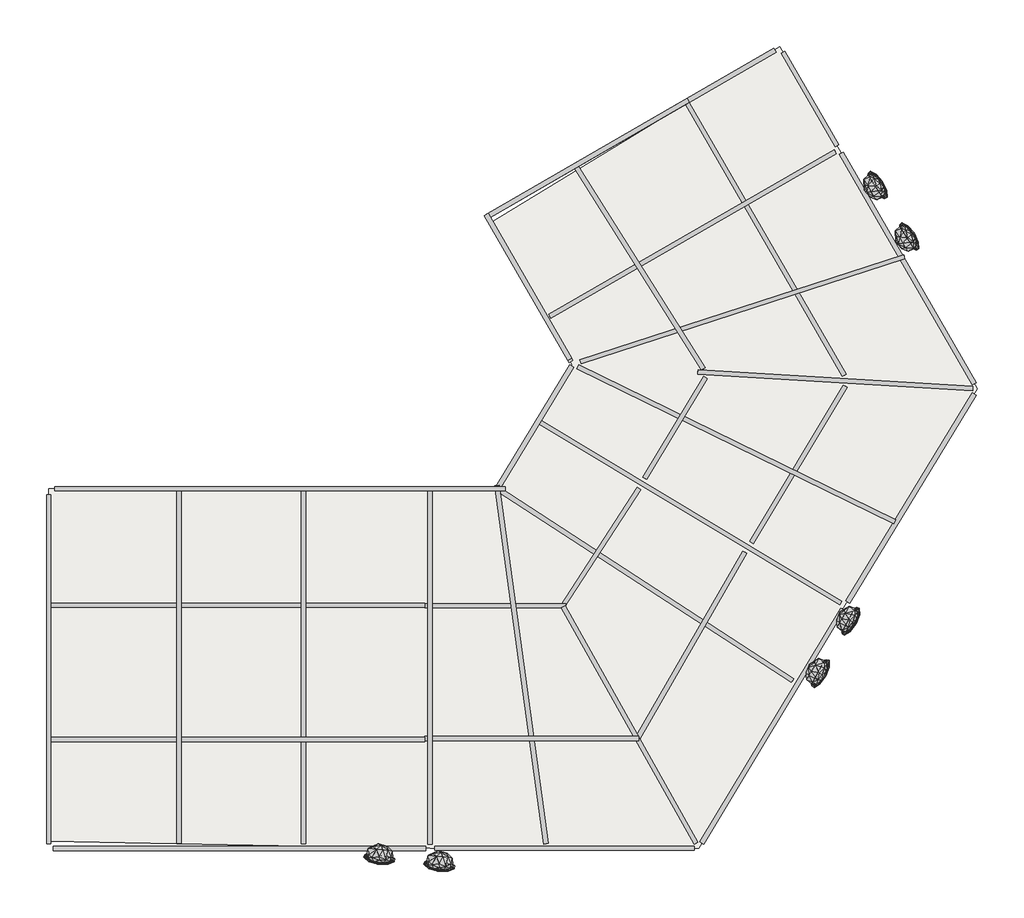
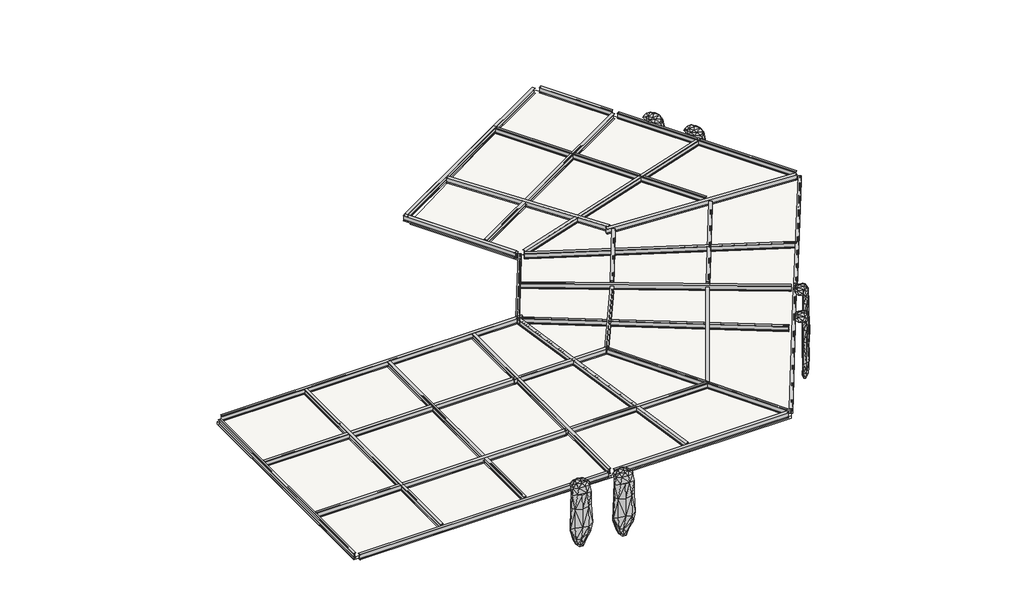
# One storey: 34 beams, 6 geographic elements, 1 slab.
"""IFC4 building model written with IfcOpenShell, lengths in millimetres."""

from ifc_helpers import new_model, si_unit, frame, origin, place, context, project, spatial, polyline, outline, extrude, transform, mapped, element, save
from components import ub_universal_beams_ub305x165x40_ebd12d4d, ub_universal_beams_ub305x165x40_08e823ad, ub_universal_beams_ub305x165x40_53f3f6d7, ub_universal_beams_ub305x165x40_38e517ae, ub_universal_beams_ub305x165x40_d7a34fde, ub_universal_beams_ub305x165x40_15c34948, ub_universal_beams_ub305x165x40_3932fa12, ub_universal_beams_ub305x165x40_b5175b7f, ub_universal_beams_ub305x165x40_0e36f50a, ub_universal_beams_ub305x165x40_98ae4895, ub_universal_beams_ub305x165x40_3089dc19, ub_universal_beams_ub305x165x40_7371696c, ub_universal_beams_ub305x165x40_f5bf656f, ub_universal_beams_ub305x165x40_f8523725, ub_universal_beams_ub305x165x40_6963316a, ub_universal_beams_ub305x165x40_47e0d0ad, ub_universal_beams_ub305x165x40_8de8485a, ub_universal_beams_ub305x165x40_45dcbf9e, ub_universal_beams_ub305x165x40_f3545ca2, ub_universal_beams_ub305x165x40_58b05e4c, ub_universal_beams_ub305x165x40_7c043438, ub_universal_beams_ub305x165x40_556f6fdc, ub_universal_beams_ub305x165x40_46529011, ub_universal_beams_ub305x165x40_ecdec9dc, ub_universal_beams_ub305x165x40_0bb05f15, ub_universal_beams_ub305x165x40_9898df02, ub_universal_beams_ub305x165x40_db302e90, ub_universal_beams_ub305x165x40_6e8e4b9c, ub_universal_beams_ub305x165x40_9f48e393, ub_universal_beams_ub305x165x40_abdacf20, ub_universal_beams_ub305x165x40_1d1fa9cd, ub_universal_beams_ub305x165x40_e7aacc84, ub_universal_beams_ub305x165x40_00892be4, geographic_element_f46679e8, geographic_element_4bf2e114

model = new_model("IFC4")

# Units and contexts
model_context = context("Model", 3, world=origin())
ifc_project = project(units=[si_unit("LENGTHUNIT", "METRE", prefix="MILLI")], contexts=[model_context])

# Site, building, storey
site = spatial("IfcSite", under=ifc_project)
building = spatial("IfcBuilding", under=site)
storey = spatial("IfcBuildingStorey", under=building, Name="RF LV", Elevation=18000.0)

# Beams
placement = place(None, origin())
ub_universal_beams_ub305x165x40_shape = ub_universal_beams_ub305x165x40_ebd12d4d(model_context)
element("IfcBeam", 1, ObjectType="UB-Universal Beams : UB305x165x40", at=placement, inside=storey, context=model_context, shape_type="MappedRepresentation", body=[
    mapped(ub_universal_beams_ub305x165x40_shape, transform((-6325.5325481, 5198.0548037, 17848.3), x_axis=(1.0, 0.0, 0.0), y_axis=(0.0, 1.0, 0.0), z_axis=(0.0, 0.0, 1.0))),
])
element("IfcBeam", 2, ObjectType="UB-Universal Beams : UB305x165x40", at=placement, inside=storey, context=model_context, shape_type="MappedRepresentation", body=[
    mapped(ub_universal_beams_ub305x165x40_shape, transform((-6325.5325481, 138.0977869, 17848.3), x_axis=(1.0, 0.0, 0.0), y_axis=(0.0, 1.0, 0.0), z_axis=(0.0, 0.0, 1.0))),
])
ub_universal_beams_ub305x165x40_2_shape = ub_universal_beams_ub305x165x40_08e823ad(model_context)
element("IfcBeam", 3, ObjectType="UB-Universal Beams : UB305x165x40", at=placement, inside=storey, context=model_context, shape_type="MappedRepresentation", body=[
    mapped(ub_universal_beams_ub305x165x40_2_shape, transform((6874.6309543, 22030.5260929, 17848.3), x_axis=(0.8660254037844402, 0.4999999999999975, 0.0), y_axis=(-0.4999999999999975, 0.8660254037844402, 0.0), z_axis=(0.0, 0.0, 1.0))),
])
ub_universal_beams_ub305x165x40_3_shape = ub_universal_beams_ub305x165x40_53f3f6d7(model_context)
element("IfcBeam", 4, ObjectType="UB-Universal Beams : UB305x165x40", at=placement, inside=storey, context=model_context, shape_type="MappedRepresentation", body=[
    mapped(ub_universal_beams_ub305x165x40_3_shape, transform((-8500.1805756, 2806.9557412, 17848.3), x_axis=(0.0, -1.0, 0.0), y_axis=(1.0, 0.0, 0.0), z_axis=(0.0, 0.0, 1.0))),
])
ub_universal_beams_ub305x165x40_4_shape = ub_universal_beams_ub305x165x40_38e517ae(model_context)
element("IfcBeam", 5, ObjectType="UB-Universal Beams : UB305x165x40", at=placement, inside=storey, context=model_context, shape_type="MappedRepresentation", body=[
    mapped(ub_universal_beams_ub305x165x40_4_shape, transform((-3804.3842071, 2806.9557412, 17848.3), x_axis=(0.0, -1.0, 0.0), y_axis=(1.0, 0.0, 0.0), z_axis=(0.0, 0.0, 1.0))),
])
ub_universal_beams_ub305x165x40_5_shape = ub_universal_beams_ub305x165x40_d7a34fde(model_context)
element("IfcBeam", 6, ObjectType="UB-Universal Beams : UB305x165x40", at=placement, inside=storey, context=model_context, shape_type="MappedRepresentation", body=[
    mapped(ub_universal_beams_ub305x165x40_5_shape, transform((960.5515361, 2806.9557412, 17848.3), x_axis=(0.0, -1.0, 0.0), y_axis=(1.0, 0.0, 0.0), z_axis=(0.0, 0.0, 1.0))),
])
ub_universal_beams_ub305x165x40_6_shape = ub_universal_beams_ub305x165x40_15c34948(model_context)
element("IfcBeam", 7, ObjectType="UB-Universal Beams : UB305x165x40", at=placement, inside=storey, context=model_context, shape_type="MappedRepresentation", body=[
    mapped(ub_universal_beams_ub305x165x40_6_shape, transform((-6229.2825481, -3976.1173429, 17848.3), x_axis=(1.0, 0.0, 0.0), y_axis=(0.0, 1.0, 0.0), z_axis=(0.0, 0.0, 1.0))),
])
ub_universal_beams_ub305x165x40_7_shape = ub_universal_beams_ub305x165x40_3932fa12(model_context)
element("IfcBeam", 8, ObjectType="UB-Universal Beams : UB305x165x40", at=placement, inside=storey, context=model_context, shape_type="MappedRepresentation", body=[
    mapped(ub_universal_beams_ub305x165x40_7_shape, transform((6031.6646176, -3968.4770737, 17848.3), x_axis=(1.0, 0.0, 0.0), y_axis=(0.0, 1.0, 0.0), z_axis=(0.0, 0.0, 1.0))),
])
ub_universal_beams_ub305x165x40_8_shape = ub_universal_beams_ub305x165x40_b5175b7f(model_context)
element("IfcBeam", 9, ObjectType="UB-Universal Beams : UB305x165x40", at=placement, inside=storey, context=model_context, shape_type="MappedRepresentation", body=[
    mapped(ub_universal_beams_ub305x165x40_8_shape, transform((8645.1707307, 23052.7477094, 17848.3), x_axis=(-0.8660254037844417, -0.49999999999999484, 0.0), y_axis=(0.49999999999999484, -0.8660254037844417, 0.0), z_axis=(0.0, 0.0, 1.0))),
])
ub_universal_beams_ub305x165x40_9_shape = ub_universal_beams_ub305x165x40_0e36f50a(model_context)
element("IfcBeam", 10, ObjectType="UB-Universal Beams : UB305x165x40", at=placement, inside=storey, context=model_context, shape_type="MappedRepresentation", body=[
    mapped(ub_universal_beams_ub305x165x40_9_shape, transform((10824.4147917, 8664.3944617, 17848.3), x_axis=(0.8571673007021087, -0.5150380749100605, 0.0), y_axis=(0.5150380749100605, 0.8571673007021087, 0.0), z_axis=(0.0, 0.0, 1.0))),
])
ub_universal_beams_ub305x165x40_10_shape = ub_universal_beams_ub305x165x40_98ae4895(model_context)
element("IfcBeam", 11, ObjectType="UB-Universal Beams : UB305x165x40", at=placement, inside=storey, context=model_context, shape_type="MappedRepresentation", body=[
    mapped(ub_universal_beams_ub305x165x40_10_shape, transform((13850.0648725, 612.0922535, 17848.3), x_axis=(0.5150380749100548, 0.857167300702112, 0.0), y_axis=(-0.857167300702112, 0.5150380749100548, 0.0), z_axis=(0.0, 0.0, 1.0))),
])
ub_universal_beams_ub305x165x40_11_shape = ub_universal_beams_ub305x165x40_3089dc19(model_context)
element("IfcBeam", 12, ObjectType="UB-Universal Beams : UB305x165x40", at=placement, inside=storey, context=model_context, shape_type="MappedRepresentation", body=[
    mapped(ub_universal_beams_ub305x165x40_11_shape, transform((3368.7512305, 5175.0288254, 17848.3), x_axis=(1.0, 0.0, 0.0), y_axis=(0.0, 1.0, 0.0), z_axis=(0.0, 0.0, 1.0))),
])
ub_universal_beams_ub305x165x40_12_shape = ub_universal_beams_ub305x165x40_7371696c(model_context)
element("IfcBeam", 13, ObjectType="UB-Universal Beams : UB305x165x40", at=placement, inside=storey, context=model_context, shape_type="MappedRepresentation", body=[
    mapped(ub_universal_beams_ub305x165x40_12_shape, transform((4772.9401602, 172.7329161, 17848.3), x_axis=(1.0, 0.0, 0.0), y_axis=(0.0, 1.0, 0.0), z_axis=(0.0, 0.0, 1.0))),
])
ub_universal_beams_ub305x165x40_13_shape = ub_universal_beams_ub305x165x40_f5bf656f(model_context)
element("IfcBeam", 14, ObjectType="UB-Universal Beams : UB305x165x40", at=placement, inside=storey, context=model_context, shape_type="MappedRepresentation", body=[
    mapped(ub_universal_beams_ub305x165x40_13_shape, transform((7413.4022539, 7391.0578271, 17848.3), x_axis=(0.544639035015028, 0.8386705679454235, 0.0), y_axis=(-0.8386705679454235, 0.544639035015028, 0.0), z_axis=(0.0, 0.0, 1.0))),
])
ub_universal_beams_ub305x165x40_14_shape = ub_universal_beams_ub305x165x40_f8523725(model_context)
element("IfcBeam", 15, ObjectType="UB-Universal Beams : UB305x165x40", at=placement, inside=storey, context=model_context, shape_type="MappedRepresentation", body=[
    mapped(ub_universal_beams_ub305x165x40_14_shape, transform((10864.7733278, 3777.8483138, 17848.3), x_axis=(0.5000000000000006, 0.8660254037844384, 0.0), y_axis=(-0.8660254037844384, 0.5000000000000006, 0.0), z_axis=(0.0, 0.0, 1.0))),
])
ub_universal_beams_ub305x165x40_15_shape = ub_universal_beams_ub305x165x40_6963316a(model_context)
element("IfcBeam", 16, ObjectType="UB-Universal Beams : UB305x165x40", at=placement, inside=storey, context=model_context, shape_type="MappedRepresentation", body=[
    mapped(ub_universal_beams_ub305x165x40_15_shape, transform((14859.8156836, 10514.1317105, 17848.3), x_axis=(0.5150380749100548, 0.857167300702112, 0.0), y_axis=(-0.857167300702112, 0.5150380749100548, 0.0), z_axis=(0.0, 0.0, 1.0))),
])
ub_universal_beams_ub305x165x40_16_shape = ub_universal_beams_ub305x165x40_47e0d0ad(model_context)
element("IfcBeam", 17, ObjectType="UB-Universal Beams : UB305x165x40", at=placement, inside=storey, context=model_context, shape_type="MappedRepresentation", body=[
    mapped(ub_universal_beams_ub305x165x40_16_shape, transform((13670.2379986, 18927.0010796, 17848.3), x_axis=(-0.4999999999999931, 0.8660254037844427, 0.0), y_axis=(-0.8660254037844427, -0.4999999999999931, 0.0), z_axis=(0.0, 0.0, 1.0))),
])
ub_universal_beams_ub305x165x40_17_shape = ub_universal_beams_ub305x165x40_8de8485a(model_context)
element("IfcBeam", 18, ObjectType="UB-Universal Beams : UB305x165x40", at=placement, inside=storey, context=model_context, shape_type="MappedRepresentation", body=[
    mapped(ub_universal_beams_ub305x165x40_17_shape, transform((10206.7088206, 11882.6074586, 17848.3), x_axis=(0.5150380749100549, 0.8571673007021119, 0.0), y_axis=(-0.8571673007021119, 0.5150380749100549, 0.0), z_axis=(0.0, 0.0, 1.0))),
])
ub_universal_beams_ub305x165x40_18_shape = ub_universal_beams_ub305x165x40_45dcbf9e(model_context)
element("IfcBeam", 19, ObjectType="UB-Universal Beams : UB305x165x40", at=placement, inside=storey, context=model_context, shape_type="MappedRepresentation", body=[
    mapped(ub_universal_beams_ub305x165x40_18_shape, transform((8933.5035487, 17830.6990322, 17848.3), x_axis=(-0.5327087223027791, 0.8462986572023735, 0.0), y_axis=(-0.8462986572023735, -0.5327087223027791, 0.0), z_axis=(0.0, 0.0, 1.0))),
])
ub_universal_beams_ub305x165x40_19_shape = ub_universal_beams_ub305x165x40_f3545ca2(model_context)
element("IfcBeam", 20, ObjectType="UB-Universal Beams : UB305x165x40", at=placement, inside=storey, context=model_context, shape_type="MappedRepresentation", body=[
    mapped(ub_universal_beams_ub305x165x40_19_shape, transform((19110.8998143, 9251.3957006, 17848.3), x_axis=(0.5192356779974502, 0.8546310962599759, 0.0), y_axis=(-0.8546310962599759, 0.5192356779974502, 0.0), z_axis=(0.0, 0.0, 1.0))),
])
ub_universal_beams_ub305x165x40_20_shape = ub_universal_beams_ub305x165x40_58b05e4c(model_context)
element("IfcBeam", 21, ObjectType="UB-Universal Beams : UB305x165x40", at=placement, inside=storey, context=model_context, shape_type="MappedRepresentation", body=[
    mapped(ub_universal_beams_ub305x165x40_20_shape, transform((18999.0168805, 17871.5989982, 17848.3), x_axis=(-0.4997126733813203, 0.8661912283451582, 0.0), y_axis=(-0.8661912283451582, -0.4997126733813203, 0.0), z_axis=(0.0, 0.0, 1.0))),
])
ub_universal_beams_ub305x165x40_21_shape = ub_universal_beams_ub305x165x40_7c043438(model_context)
element("IfcBeam", 22, ObjectType="UB-Universal Beams : UB305x165x40", at=placement, inside=storey, context=model_context, shape_type="MappedRepresentation", body=[
    mapped(ub_universal_beams_ub305x165x40_21_shape, transform((15281.1015417, 24314.6765108, 17848.3), x_axis=(-0.4999999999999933, 0.8660254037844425, 0.0), y_axis=(-0.8660254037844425, -0.4999999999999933, 0.0), z_axis=(0.0, 0.0, 1.0))),
])
ub_universal_beams_ub305x165x40_22_shape = ub_universal_beams_ub305x165x40_556f6fdc(model_context)
element("IfcBeam", 23, ObjectType="UB-Universal Beams : UB305x165x40", at=placement, inside=storey, context=model_context, shape_type="MappedRepresentation", body=[
    mapped(ub_universal_beams_ub305x165x40_22_shape, transform((7296.7845649, 2810.7758759, 17848.3), x_axis=(0.48954421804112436, -0.8719784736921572, 0.0), y_axis=(0.8719784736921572, 0.48954421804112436, 0.0), z_axis=(0.0, 0.0, 1.0))),
])
ub_universal_beams_ub305x165x40_23_shape = ub_universal_beams_ub305x165x40_46529011(model_context)
element("IfcBeam", 24, ObjectType="UB-Universal Beams : UB305x165x40", at=placement, inside=storey, context=model_context, shape_type="MappedRepresentation", body=[
    mapped(ub_universal_beams_ub305x165x40_23_shape, transform((9163.9729449, 5913.1134518, 17848.3), x_axis=(0.8386705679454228, -0.5446390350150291, 0.0), y_axis=(0.5446390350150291, 0.8386705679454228, 0.0), z_axis=(0.0, 0.0, 1.0))),
])
ub_universal_beams_ub305x165x40_24_shape = ub_universal_beams_ub305x165x40_ecdec9dc(model_context)
element("IfcBeam", 25, ObjectType="UB-Universal Beams : UB305x165x40", at=placement, inside=storey, context=model_context, shape_type="MappedRepresentation", body=[
    mapped(ub_universal_beams_ub305x165x40_24_shape, transform((4440.0365323, 2736.0666035, 17848.3), x_axis=(0.13598314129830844, -0.9907111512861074, 0.0), y_axis=(0.9907111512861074, 0.13598314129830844, 0.0), z_axis=(0.0, 0.0, 1.0))),
])
ub_universal_beams_ub305x165x40_25_shape = ub_universal_beams_ub305x165x40_0bb05f15(model_context)
element("IfcBeam", 26, ObjectType="UB-Universal Beams : UB305x165x40", at=placement, inside=storey, context=model_context, shape_type="MappedRepresentation", body=[
    mapped(ub_universal_beams_ub305x165x40_25_shape, transform((4925.2400457, 11936.2573902, 17848.3), x_axis=(-0.518638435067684, -0.8549936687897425, 0.0), y_axis=(0.8549936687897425, -0.518638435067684, 0.0), z_axis=(0.0, 0.0, 1.0))),
])
ub_universal_beams_ub305x165x40_26_shape = ub_universal_beams_ub305x165x40_9898df02(model_context)
element("IfcBeam", 27, ObjectType="UB-Universal Beams : UB305x165x40", at=placement, inside=storey, context=model_context, shape_type="MappedRepresentation", body=[
    mapped(ub_universal_beams_ub305x165x40_26_shape, transform((4733.3229163, 17072.5687538, 17848.3), x_axis=(0.4999999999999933, -0.8660254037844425, 0.0), y_axis=(0.8660254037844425, 0.4999999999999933, 0.0), z_axis=(0.0, 0.0, 1.0))),
])
ub_universal_beams_ub305x165x40_27_shape = ub_universal_beams_ub305x165x40_db302e90(model_context)
element("IfcBeam", 28, ObjectType="UB-Universal Beams : UB305x165x40", at=placement, inside=storey, context=model_context, shape_type="MappedRepresentation", body=[
    mapped(ub_universal_beams_ub305x165x40_27_shape, transform((4733.3229163, 17072.5687538, 17848.3), x_axis=(0.4999999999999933, -0.8660254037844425, 0.0), y_axis=(0.8660254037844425, 0.4999999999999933, 0.0), z_axis=(0.0, 0.0, 1.0))),
])
ub_universal_beams_ub305x165x40_28_shape = ub_universal_beams_ub305x165x40_6e8e4b9c(model_context)
element("IfcBeam", 29, ObjectType="UB-Universal Beams : UB305x165x40", at=placement, inside=storey, context=model_context, shape_type="MappedRepresentation", body=[
    mapped(ub_universal_beams_ub305x165x40_28_shape, transform((13976.7996368, 13822.3558977, 17848.3), x_axis=(0.9981739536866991, -0.06040495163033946, 0.0), y_axis=(0.06040495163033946, 0.9981739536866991, 0.0), z_axis=(0.0, 0.0, 1.0))),
])
ub_universal_beams_ub305x165x40_29_shape = ub_universal_beams_ub305x165x40_9f48e393(model_context)
element("IfcBeam", 30, ObjectType="UB-Universal Beams : UB305x165x40", at=placement, inside=storey, context=model_context, shape_type="MappedRepresentation", body=[
    mapped(ub_universal_beams_ub305x165x40_29_shape, transform((12503.0054589, 11276.0266089, 17848.3), x_axis=(0.898794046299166, -0.43837114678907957, 0.0), y_axis=(0.43837114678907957, 0.898794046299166, 0.0), z_axis=(0.0, 0.0, 1.0))),
])
ub_universal_beams_ub305x165x40_30_shape = ub_universal_beams_ub305x165x40_abdacf20(model_context)
element("IfcBeam", 31, ObjectType="UB-Universal Beams : UB305x165x40", at=placement, inside=storey, context=model_context, shape_type="MappedRepresentation", body=[
    mapped(ub_universal_beams_ub305x165x40_30_shape, transform((10868.1267743, 19202.474899, 17848.3), x_axis=(0.8663618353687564, 0.49941683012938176, 0.0), y_axis=(-0.49941683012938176, 0.8663618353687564, 0.0), z_axis=(0.0, 0.0, 1.0))),
])
ub_universal_beams_ub305x165x40_31_shape = ub_universal_beams_ub305x165x40_1d1fa9cd(model_context)
element("IfcBeam", 32, ObjectType="UB-Universal Beams : UB305x165x40", at=placement, inside=storey, context=model_context, shape_type="MappedRepresentation", body=[
    mapped(ub_universal_beams_ub305x165x40_31_shape, transform((12545.3014323, 16295.9616916, 17848.3), x_axis=(0.9510565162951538, 0.3090169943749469, 0.0), y_axis=(-0.3090169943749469, 0.9510565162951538, 0.0), z_axis=(0.0, 0.0, 1.0))),
])
ub_universal_beams_ub305x165x40_32_shape = ub_universal_beams_ub305x165x40_e7aacc84(model_context)
element("IfcBeam", 33, ObjectType="UB-Universal Beams : UB305x165x40", at=placement, inside=storey, context=model_context, shape_type="MappedRepresentation", body=[
    mapped(ub_universal_beams_ub305x165x40_32_shape, transform((-13419.1166324, 2806.9557412, 17848.3), x_axis=(0.0, 1.0, 0.0), y_axis=(-1.0, 0.0, 0.0), z_axis=(0.0, 0.0, 1.0))),
])
ub_universal_beams_ub305x165x40_33_shape = ub_universal_beams_ub305x165x40_00892be4(model_context)
element("IfcBeam", 34, ObjectType="UB-Universal Beams : UB305x165x40", at=placement, inside=storey, context=model_context, shape_type="MappedRepresentation", body=[
    mapped(ub_universal_beams_ub305x165x40_33_shape, transform((-4964.1626009, 9590.0288254, 17848.3), x_axis=(1.0, 0.0, 0.0), y_axis=(0.0, 1.0, 0.0), z_axis=(0.0, 0.0, 1.0))),
])

# Geographic elements
geographic_element_shape = geographic_element_f46679e8(model_context)
element("IfcGeographicElement", 35, ObjectType="Enscape AssetDefinition - Creeper Plant 021 Bower Vine : Enscape AssetDefinition - Creeper Plant 021 Bower Vine", at=placement, inside=storey, context=model_context, shape_type="MappedRepresentation", body=[
    mapped(geographic_element_shape, transform((16744.1213804, 4644.0594791, 18000.0), x_axis=(0.4831824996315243, 0.8755196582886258, 0.0), y_axis=(-0.8755196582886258, 0.4831824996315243, 0.0), z_axis=(0.0, 0.0, 1.0))),
])
element("IfcGeographicElement", 36, ObjectType="Enscape AssetDefinition - Creeper Plant 021 Bower Vine : Enscape AssetDefinition - Creeper Plant 021 Bower Vine", at=placement, inside=storey, context=model_context, shape_type="MappedRepresentation", body=[
    mapped(geographic_element_shape, transform((15599.0071557, 2672.557577, 18000.0), x_axis=(0.4831824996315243, 0.8755196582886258, 0.0), y_axis=(-0.8755196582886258, 0.4831824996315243, 0.0), z_axis=(0.0, 0.0, 1.0))),
])
element("IfcGeographicElement", 37, ObjectType="Enscape AssetDefinition - Creeper Plant 021 Bower Vine : Enscape AssetDefinition - Creeper Plant 021 Bower Vine", at=placement, inside=storey, context=model_context, shape_type="MappedRepresentation", body=[
    mapped(geographic_element_shape, transform((17757.9630045, 20994.2951426, 18000.0), x_axis=(-0.5414431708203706, 0.8407373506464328, 0.0), y_axis=(-0.8407373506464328, -0.5414431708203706, 0.0), z_axis=(0.0, 0.0, 1.0))),
])
element("IfcGeographicElement", 38, ObjectType="Enscape AssetDefinition - Creeper Plant 021 Bower Vine : Enscape AssetDefinition - Creeper Plant 021 Bower Vine", at=placement, inside=storey, context=model_context, shape_type="MappedRepresentation", body=[
    mapped(geographic_element_shape, transform((18950.1062971, 19050.8701485, 18000.0), x_axis=(-0.5414431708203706, 0.8407373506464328, 0.0), y_axis=(-0.8407373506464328, -0.5414431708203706, 0.0), z_axis=(0.0, 0.0, 1.0))),
])
geographic_element_2_shape = geographic_element_4bf2e114(model_context)
element("IfcGeographicElement", 39, ObjectType="Enscape AssetDefinition - Creeper Plant 021 Bower Vine : Enscape AssetDefinition - Creeper Plant 021 Bower Vine", at=placement, inside=storey, context=model_context, shape_type="MappedRepresentation", body=[
    mapped(geographic_element_2_shape, transform((-936.9876737, -4244.6078479, 18000.0), x_axis=(-0.990339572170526, 0.13866337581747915, 0.0), y_axis=(-0.13866337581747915, -0.990339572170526, 0.0), z_axis=(0.0, 0.0, 1.0))),
])
element("IfcGeographicElement", 40, ObjectType="Enscape AssetDefinition - Creeper Plant 021 Bower Vine : Enscape AssetDefinition - Creeper Plant 021 Bower Vine", at=placement, inside=storey, context=model_context, shape_type="MappedRepresentation", body=[
    mapped(geographic_element_2_shape, transform((1327.309964, -4511.1834388, 18000.0), x_axis=(-0.990339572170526, 0.13866337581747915, 0.0), y_axis=(-0.13866337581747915, -0.990339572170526, 0.0), z_axis=(0.0, 0.0, 1.0))),
])

# Slab
element("IfcSlab", 41, ObjectType="Floor-Grnd-Susp_65Scr-80Ins-100Blk-75PC", at=placement, inside=storey, context=model_context, shape_type="SweptSolid", body=[
    extrude(outline(polyline([(-13419.1166324, -3709.9711746), (-13419.1166324, 9587.3995325), (3631.6499965, 9587.3995325), (6329.4818576, 14265.1878185), (3246.0168987, 19620.9925057), (14160.4870046, 26269.5067989), (21610.6292603, 13365.8104149), (18532.9328806, 8355.602336), (16596.2871995, 5202.9203816), (11098.0496286, -3976.3706375), (5378.0496286, -3976.3706375), (968.4172538, -3976.3706375), (-3780.7687058, -3888.4347481), (-13419.1166324, -3709.9711746)])), frame((0.0, 0.0, 17560.0), z_axis=(0.0, 0.0, 1.0), x_axis=(1.0, 0.0, 0.0)), (0.0, 0.0, 1.0), 140.0),
])

save(model, "model.ifc")
